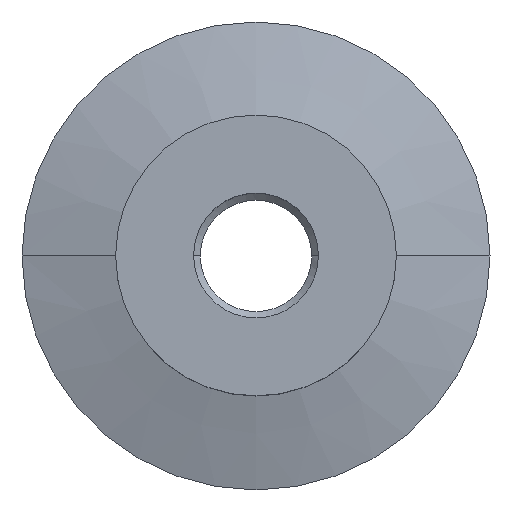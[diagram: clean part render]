
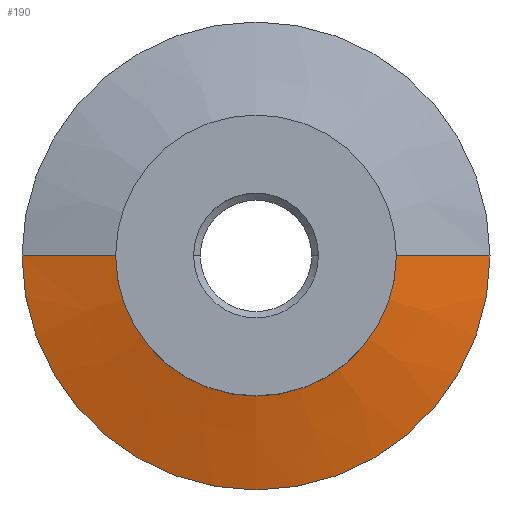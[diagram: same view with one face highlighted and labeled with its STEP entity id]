
A CAD part, top view. The second image highlights one B-rep face of the part: STEP entity #190.
In plain terms, the highlighted conical face has half-angle 74.404 degrees and reference radius 15 mm.
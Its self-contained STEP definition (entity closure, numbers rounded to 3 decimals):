
#38 = CARTESIAN_POINT ( 'NONE',  ( -4.194, 0., -15.984 ) ) ;
#81 = DIRECTION ( 'NONE',  ( -0.963, 0., -0.269 ) ) ;
#97 = CARTESIAN_POINT ( 'NONE',  ( -15., 0., -19. ) ) ;
#113 = AXIS2_PLACEMENT_3D ( 'NONE', #447, #913, #642 ) ;
#143 = AXIS2_PLACEMENT_3D ( 'NONE', #420, #414, #404 ) ;
#175 = CONICAL_SURFACE ( 'NONE', #197, 15., 1.299 ) ;
#179 = EDGE_CURVE ( 'NONE', #359, #812, #401, .T. ) ;
#190 = ADVANCED_FACE ( 'NONE', ( #952 ), #175, .T. ) ;
#197 = AXIS2_PLACEMENT_3D ( 'NONE', #764, #835, #852 ) ;
#205 = EDGE_CURVE ( 'NONE', #270, #359, #738, .T. ) ;
#211 = VECTOR ( 'NONE', #819, 1000. ) ;
#214 = EDGE_LOOP ( 'NONE', ( #237, #560, #814, #662 ) ) ;
#236 = VERTEX_POINT ( 'NONE', #861 ) ;
#237 = ORIENTED_EDGE ( 'NONE', *, *, #179, .F. ) ;
#255 = EDGE_CURVE ( 'NONE', #270, #236, #355, .T. ) ;
#270 = VERTEX_POINT ( 'NONE', #38 ) ;
#355 = LINE ( 'NONE', #97, #624 ) ;
#359 = VERTEX_POINT ( 'NONE', #867 ) ;
#367 = EDGE_CURVE ( 'NONE', #236, #812, #489, .T. ) ;
#398 = CARTESIAN_POINT ( 'NONE',  ( 15., 0., -19. ) ) ;
#401 = LINE ( 'NONE', #900, #211 ) ;
#404 = DIRECTION ( 'NONE',  ( 1., 0., 0. ) ) ;
#414 = DIRECTION ( 'NONE',  ( 0., 0., 1. ) ) ;
#420 = CARTESIAN_POINT ( 'NONE',  ( 0., 0., -15.984 ) ) ;
#447 = CARTESIAN_POINT ( 'NONE',  ( 0., 0., -19. ) ) ;
#489 = CIRCLE ( 'NONE', #113, 15. ) ;
#560 = ORIENTED_EDGE ( 'NONE', *, *, #205, .F. ) ;
#624 = VECTOR ( 'NONE', #81, 1000. ) ;
#642 = DIRECTION ( 'NONE',  ( 1., 0., 0. ) ) ;
#662 = ORIENTED_EDGE ( 'NONE', *, *, #367, .T. ) ;
#738 = CIRCLE ( 'NONE', #143, 4.194 ) ;
#764 = CARTESIAN_POINT ( 'NONE',  ( 0., 0., -19. ) ) ;
#812 = VERTEX_POINT ( 'NONE', #398 ) ;
#814 = ORIENTED_EDGE ( 'NONE', *, *, #255, .T. ) ;
#819 = DIRECTION ( 'NONE',  ( 0.963, 0., -0.269 ) ) ;
#835 = DIRECTION ( 'NONE',  ( 0., 0., -1. ) ) ;
#852 = DIRECTION ( 'NONE',  ( -1., 0., 0. ) ) ;
#861 = CARTESIAN_POINT ( 'NONE',  ( -15., 0., -19. ) ) ;
#867 = CARTESIAN_POINT ( 'NONE',  ( 4.194, 0., -15.984 ) ) ;
#900 = CARTESIAN_POINT ( 'NONE',  ( 15., 0., -19. ) ) ;
#913 = DIRECTION ( 'NONE',  ( 0., 0., 1. ) ) ;
#952 = FACE_OUTER_BOUND ( 'NONE', #214, .T. ) ;
